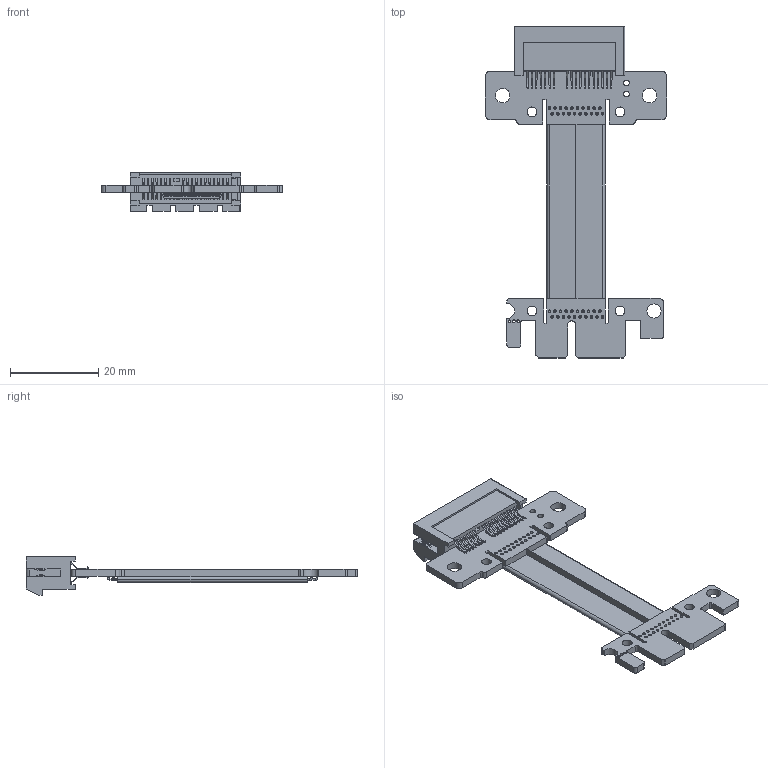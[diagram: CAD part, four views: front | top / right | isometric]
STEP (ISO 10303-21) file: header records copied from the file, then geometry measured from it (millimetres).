
FILE_DESCRIPTION(('Open CASCADE Model'),'2;1');
FILE_NAME('Open CASCADE Shape Model','2020-02-03T14:55:11',('Author'),( 'Open CASCADE'),'Open CASCADE STEP processor 6.8','Open CASCADE 6.8' ,'Unknown');
FILE_SCHEMA(('AUTOMOTIVE_DESIGN { 1 0 10303 214 1 1 1 1 }'));
Length unit declared in the file: millimetre
Products named in the file (7): PCB; Board; Open CASCADE STEP translator 6.8 1.1.1; Open CASCADE STEP translator 6.8 1.1.2; Free-Models; AAA-PCI--1×_3D_RGB4404530; cable20-43
Assembly tree (6 placements, depth 3):
  PCB
    Board
      Open CASCADE STEP translator 6.8 1.1.1
      Open CASCADE STEP translator 6.8 1.1.2
    Free-Models
      AAA-PCI--1×_3D_RGB4404530
      cable20-43
Bounding box: 41.08 x 75.25 x 8.78 mm (x, y, z)
Volume: 3425.6 mm3; surface area: 6710.7 mm2
Topology: 44 solids, 44 shells, 2172 faces, 5341 edges, 3299 vertices
Faces by surface type: plane 1081, cylinder 795, bspline 216, torus 80
Full cylindrical faces by diameter (mm): 0.6 x43, 1.3 x2, 2.2 x4, 3.2 x1, 3.3 x2
Entity records: 81189 total; most frequent: CARTESIAN_POINT 15248, ORIENTED_EDGE 10682, DIRECTION 9830, EDGE_CURVE 5341, LINE 3564, VECTOR 3564, VERTEX_POINT 3299, AXIS2_PLACEMENT_3D 3133
